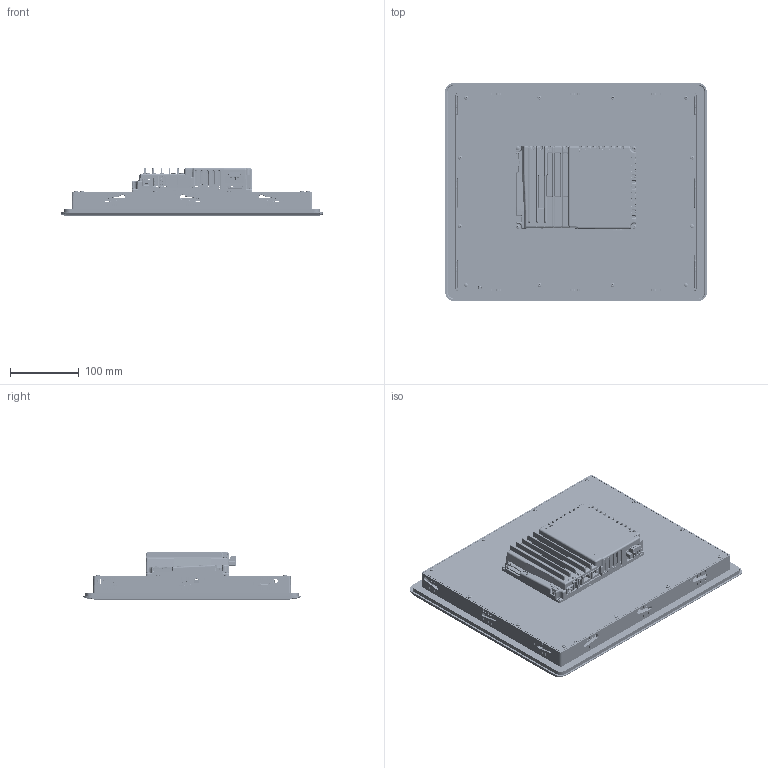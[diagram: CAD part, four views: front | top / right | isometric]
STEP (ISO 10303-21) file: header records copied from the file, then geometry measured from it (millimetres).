
FILE_DESCRIPTION((''),'2;1');
FILE_NAME('15_INCH_TOUCH_ME_ASM','2013-10-03T',('ABPayne'),('Rockwell Automation'),'PRO/ENGINEER BY PARAMETRIC TECHNOLOGY CORPORATION, 2010140','PRO/ENGINEER BY PARAMETRIC TECHNOLOGY CORPORATION, 2010140','');
FILE_SCHEMA(('CONFIG_CONTROL_DESIGN'));
Products named in the file (1): 15_INCH_TOUCH_ME_ASM
Bounding box: 381 x 318 x 69.49 mm (x, y, z)
Volume: 853198.4 mm3; surface area: 1110226.8 mm2
Topology: 7 solids, 101 shells, 12747 faces, 33289 edges, 20693 vertices
Faces by surface type: plane 6874, cylinder 3139, bspline 953, cone 811, torus 684, sphere 208, extrusion 78
Full cylindrical faces by diameter (mm): 1 x1
Entity records: 443325 total; most frequent: CARTESIAN_POINT 142405, ORIENTED_EDGE 65504, DIRECTION 57280, EDGE_CURVE 33201, VECTOR 21206, LINE 21128, VERTEX_POINT 20755, AXIS2_PLACEMENT_3D 18037
